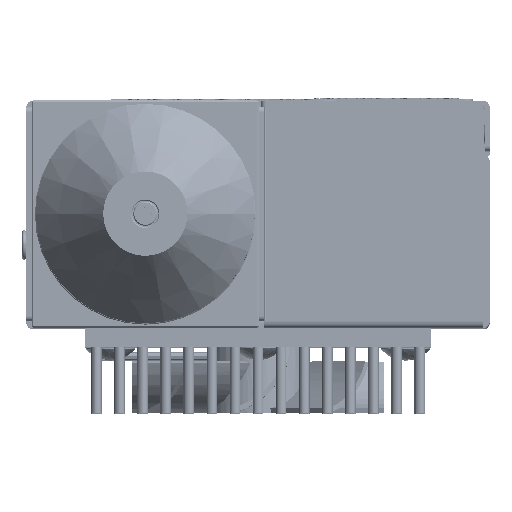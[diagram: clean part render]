
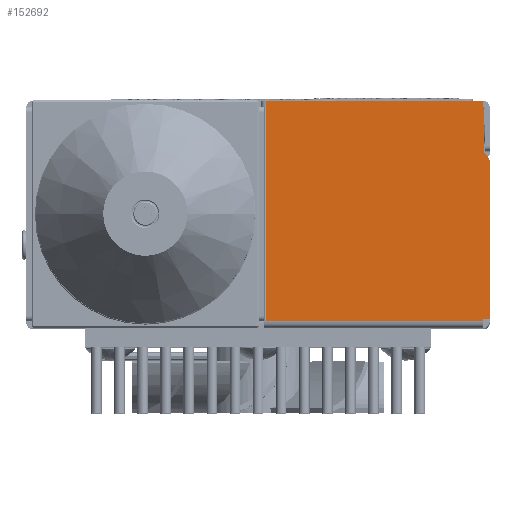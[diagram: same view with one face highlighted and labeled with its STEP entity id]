
A CAD part, top view. The second image highlights one B-rep face of the part: STEP entity #152692.
In plain terms, the highlighted planar face has unit normal (0, 0, 1).
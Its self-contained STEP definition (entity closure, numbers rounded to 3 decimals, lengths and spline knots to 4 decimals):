
#3262 = EDGE_CURVE ( 'NONE', #51933, #84017, #69959, .T. ) ;
#3988 = ORIENTED_EDGE ( 'NONE', *, *, #250468, .F. ) ;
#7731 = EDGE_LOOP ( 'NONE', ( #63855, #178725, #143352, #177697, #203382, #47455, #82078, #129177, #35644, #16347, #244267, #3988, #98084, #173827, #285281 ) ) ;
#12445 = LINE ( 'NONE', #31580, #162693 ) ;
#13746 = LINE ( 'NONE', #110422, #268305 ) ;
#15002 = DIRECTION ( 'NONE',  ( 0., 0., 1. ) ) ;
#15516 = CARTESIAN_POINT ( 'NONE',  ( -5.7405, 6.1705, 0. ) ) ;
#16347 = ORIENTED_EDGE ( 'NONE', *, *, #3262, .F. ) ;
#16588 = DIRECTION ( 'NONE',  ( 0., 0., -1. ) ) ;
#19953 = CARTESIAN_POINT ( 'NONE',  ( -5.74, 7.1011, 0. ) ) ;
#23950 = DIRECTION ( 'NONE',  ( 0.707, -0.707, 0. ) ) ;
#25475 = VERTEX_POINT ( 'NONE', #295819 ) ;
#29267 = CARTESIAN_POINT ( 'NONE',  ( -5.7405, 7.4634, 0. ) ) ;
#29501 = CARTESIAN_POINT ( 'NONE',  ( -7.0278, 7.4319, 0. ) ) ;
#31580 = CARTESIAN_POINT ( 'NONE',  ( -5.699, 6.1705, 0. ) ) ;
#35580 = DIRECTION ( 'NONE',  ( 0., 1., 0. ) ) ;
#35644 = ORIENTED_EDGE ( 'NONE', *, *, #237899, .F. ) ;
#37018 = EDGE_CURVE ( 'NONE', #290198, #100848, #12445, .T. ) ;
#38389 = LINE ( 'NONE', #135079, #185576 ) ;
#39836 = CARTESIAN_POINT ( 'NONE',  ( -5.7405, 7.4271, 0. ) ) ;
#40362 = FACE_OUTER_BOUND ( 'NONE', #7731, .T. ) ;
#40940 = VECTOR ( 'NONE', #23950, 39.3701 ) ;
#41254 = LINE ( 'NONE', #131686, #94218 ) ;
#41927 = DIRECTION ( 'NONE',  ( -1., 0., 0. ) ) ;
#46714 = VECTOR ( 'NONE', #35580, 39.3701 ) ;
#47455 = ORIENTED_EDGE ( 'NONE', *, *, #181142, .F. ) ;
#47728 = CARTESIAN_POINT ( 'NONE',  ( -5.8561, 7.2751, 0. ) ) ;
#51933 = VERTEX_POINT ( 'NONE', #257814 ) ;
#53383 = LINE ( 'NONE', #170715, #173419 ) ;
#59195 = CARTESIAN_POINT ( 'NONE',  ( -5.6993, 7.1059, 0. ) ) ;
#63855 = ORIENTED_EDGE ( 'NONE', *, *, #137050, .T. ) ;
#69929 = VECTOR ( 'NONE', #106130, 39.3701 ) ;
#69959 = LINE ( 'NONE', #47728, #40940 ) ;
#74944 = VECTOR ( 'NONE', #225448, 39.3701 ) ;
#77291 = AXIS2_PLACEMENT_3D ( 'NONE', #19953, #281425, #303664 ) ;
#79255 = LINE ( 'NONE', #226644, #69929 ) ;
#82078 = ORIENTED_EDGE ( 'NONE', *, *, #37018, .T. ) ;
#84017 = VERTEX_POINT ( 'NONE', #209027 ) ;
#84762 = CARTESIAN_POINT ( 'NONE',  ( -5.725, 7.1583, 0. ) ) ;
#85924 = CARTESIAN_POINT ( 'NONE',  ( -5.7405, 7.4634, 0. ) ) ;
#86738 = VERTEX_POINT ( 'NONE', #193264 ) ;
#86929 = DIRECTION ( 'NONE',  ( 1., 0., 0. ) ) ;
#94218 = VECTOR ( 'NONE', #185519, 39.3701 ) ;
#95142 = CARTESIAN_POINT ( 'NONE',  ( -5.7405, 6.1551, 0. ) ) ;
#95577 = VERTEX_POINT ( 'NONE', #59195 ) ;
#98084 = ORIENTED_EDGE ( 'NONE', *, *, #301845, .T. ) ;
#100848 = VERTEX_POINT ( 'NONE', #155898 ) ;
#106130 = DIRECTION ( 'NONE',  ( 0., 1., 0. ) ) ;
#110109 = DIRECTION ( 'NONE',  ( -1., 0., 0. ) ) ;
#110422 = CARTESIAN_POINT ( 'NONE',  ( -5.6993, 7.4321, 0. ) ) ;
#114999 = EDGE_CURVE ( 'NONE', #238495, #246053, #300239, .T. ) ;
#125653 = CARTESIAN_POINT ( 'NONE',  ( -5.7405, 6.1551, 0. ) ) ;
#125858 = VERTEX_POINT ( 'NONE', #302163 ) ;
#127958 = CIRCLE ( 'NONE', #77291, 0.041 ) ;
#129036 = EDGE_CURVE ( 'NONE', #86738, #51933, #307932, .T. ) ;
#129177 = ORIENTED_EDGE ( 'NONE', *, *, #131243, .F. ) ;
#130337 = EDGE_CURVE ( 'NONE', #125858, #25475, #184103, .T. ) ;
#131243 = EDGE_CURVE ( 'NONE', #95577, #100848, #13746, .T. ) ;
#131686 = CARTESIAN_POINT ( 'NONE',  ( -5.699, 7.4271, 0. ) ) ;
#135079 = CARTESIAN_POINT ( 'NONE',  ( -5.7405, 7.4321, 0. ) ) ;
#137050 = EDGE_CURVE ( 'NONE', #313640, #215841, #53383, .T. ) ;
#143352 = ORIENTED_EDGE ( 'NONE', *, *, #130337, .F. ) ;
#150983 = LINE ( 'NONE', #177888, #74944 ) ;
#152692 = ADVANCED_FACE ( 'NONE', ( #40362 ), #233760, .F. ) ;
#155898 = CARTESIAN_POINT ( 'NONE',  ( -5.6993, 6.1705, 0. ) ) ;
#159248 = CARTESIAN_POINT ( 'NONE',  ( -5.699, 7.4634, 0. ) ) ;
#162693 = VECTOR ( 'NONE', #86929, 39.3701 ) ;
#170115 = LINE ( 'NONE', #125653, #218455 ) ;
#170715 = CARTESIAN_POINT ( 'NONE',  ( -5.699, 7.4634, 0. ) ) ;
#173419 = VECTOR ( 'NONE', #175427, 39.3701 ) ;
#173827 = ORIENTED_EDGE ( 'NONE', *, *, #114999, .T. ) ;
#175427 = DIRECTION ( 'NONE',  ( -1., 0., 0. ) ) ;
#176013 = CARTESIAN_POINT ( 'NONE',  ( -5.7405, 7.4319, 0. ) ) ;
#177697 = ORIENTED_EDGE ( 'NONE', *, *, #185513, .F. ) ;
#177724 = CARTESIAN_POINT ( 'NONE',  ( -7.0261, 6.1551, 0. ) ) ;
#177888 = CARTESIAN_POINT ( 'NONE',  ( -5.735, 7.4321, 0. ) ) ;
#178424 = DIRECTION ( 'NONE',  ( 0., -1., 0. ) ) ;
#178725 = ORIENTED_EDGE ( 'NONE', *, *, #247770, .T. ) ;
#181142 = EDGE_CURVE ( 'NONE', #290198, #217618, #38389, .T. ) ;
#182645 = DIRECTION ( 'NONE',  ( 0., 1., 0. ) ) ;
#184103 = LINE ( 'NONE', #39836, #313552 ) ;
#185513 = EDGE_CURVE ( 'NONE', #309046, #125858, #79255, .T. ) ;
#185519 = DIRECTION ( 'NONE',  ( -1., 0., 0. ) ) ;
#185576 = VECTOR ( 'NONE', #280835, 39.3701 ) ;
#193264 = CARTESIAN_POINT ( 'NONE',  ( -5.735, 7.1583, 0. ) ) ;
#203382 = ORIENTED_EDGE ( 'NONE', *, *, #223708, .T. ) ;
#207137 = DIRECTION ( 'NONE',  ( 0., -1., 0. ) ) ;
#207882 = DIRECTION ( 'NONE',  ( -1., 0., 0. ) ) ;
#209027 = CARTESIAN_POINT ( 'NONE',  ( -5.7111, 7.1301, 0. ) ) ;
#215841 = VERTEX_POINT ( 'NONE', #254504 ) ;
#217618 = VERTEX_POINT ( 'NONE', #95142 ) ;
#218455 = VECTOR ( 'NONE', #225498, 39.3701 ) ;
#219734 = LINE ( 'NONE', #29501, #301854 ) ;
#223708 = EDGE_CURVE ( 'NONE', #309046, #217618, #170115, .T. ) ;
#225448 = DIRECTION ( 'NONE',  ( 0., -1., 0. ) ) ;
#225498 = DIRECTION ( 'NONE',  ( 1., 0., 0. ) ) ;
#226644 = CARTESIAN_POINT ( 'NONE',  ( -7.0261, 6.1551, 0. ) ) ;
#228370 = VERTEX_POINT ( 'NONE', #283886 ) ;
#233760 = PLANE ( 'NONE',  #238049 ) ;
#234062 = VECTOR ( 'NONE', #182645, 39.3701 ) ;
#237178 = AXIS2_PLACEMENT_3D ( 'NONE', #84762, #15002, #110109 ) ;
#237899 = EDGE_CURVE ( 'NONE', #84017, #95577, #127958, .T. ) ;
#238049 = AXIS2_PLACEMENT_3D ( 'NONE', #159248, #16588, #41927 ) ;
#238495 = VERTEX_POINT ( 'NONE', #285787 ) ;
#244267 = ORIENTED_EDGE ( 'NONE', *, *, #129036, .F. ) ;
#246053 = VERTEX_POINT ( 'NONE', #176013 ) ;
#247770 = EDGE_CURVE ( 'NONE', #215841, #25475, #219734, .T. ) ;
#250468 = EDGE_CURVE ( 'NONE', #228370, #86738, #150983, .T. ) ;
#254504 = CARTESIAN_POINT ( 'NONE',  ( -7.0278, 7.4634, 0. ) ) ;
#255503 = LINE ( 'NONE', #85924, #234062 ) ;
#257814 = CARTESIAN_POINT ( 'NONE',  ( -5.7321, 7.1512, 0. ) ) ;
#263478 = EDGE_CURVE ( 'NONE', #246053, #313640, #255503, .T. ) ;
#268305 = VECTOR ( 'NONE', #207137, 39.3701 ) ;
#270258 = CARTESIAN_POINT ( 'NONE',  ( -5.7405, 2.3087, 0. ) ) ;
#280835 = DIRECTION ( 'NONE',  ( 0., -1., 0. ) ) ;
#281425 = DIRECTION ( 'NONE',  ( 0., 0., -1. ) ) ;
#283886 = CARTESIAN_POINT ( 'NONE',  ( -5.735, 7.4271, 0. ) ) ;
#285281 = ORIENTED_EDGE ( 'NONE', *, *, #263478, .T. ) ;
#285787 = CARTESIAN_POINT ( 'NONE',  ( -5.7405, 7.4271, 0. ) ) ;
#290198 = VERTEX_POINT ( 'NONE', #15516 ) ;
#295819 = CARTESIAN_POINT ( 'NONE',  ( -7.0278, 7.4271, 0. ) ) ;
#300239 = LINE ( 'NONE', #270258, #46714 ) ;
#301845 = EDGE_CURVE ( 'NONE', #228370, #238495, #41254, .T. ) ;
#301854 = VECTOR ( 'NONE', #178424, 39.3701 ) ;
#302163 = CARTESIAN_POINT ( 'NONE',  ( -7.0261, 7.4271, 0. ) ) ;
#303664 = DIRECTION ( 'NONE',  ( -1., 0., 0. ) ) ;
#307932 = CIRCLE ( 'NONE', #237178, 0.01 ) ;
#309046 = VERTEX_POINT ( 'NONE', #177724 ) ;
#313552 = VECTOR ( 'NONE', #207882, 39.3701 ) ;
#313640 = VERTEX_POINT ( 'NONE', #29267 ) ;
